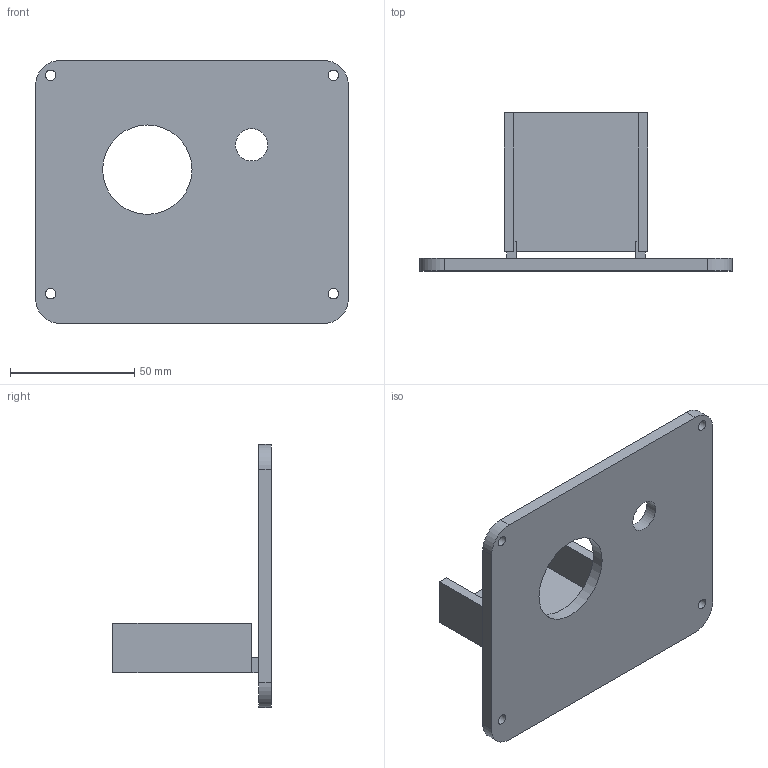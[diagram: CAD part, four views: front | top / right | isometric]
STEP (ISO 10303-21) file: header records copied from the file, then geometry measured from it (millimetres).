
FILE_DESCRIPTION(('FreeCAD Model'),'2;1');
FILE_NAME('Open CASCADE Shape Model','2026-10-14T02:28:25',('FreeCAD'),( 'FreeCAD'),'Open CASCADE STEP processor 7.8','FreeCAD','Unknown');
FILE_SCHEMA(('AUTOMOTIVE_DESIGN { 1 0 10303 214 1 1 1 1 }'));
Length unit declared in the file: millimetre
Products named in the file (1): Open CASCADE STEP translator 7.8 3
Bounding box: 126 x 63.8 x 106 mm (x, y, z)
Volume: 80631.9 mm3; surface area: 38668 mm2
Topology: 1 solids, 1 shells, 36 faces, 102 edges, 68 vertices
Faces by surface type: plane 26, cylinder 10
Full cylindrical faces by diameter (mm): 4.2 x4, 13 x1, 36 x1
Entity records: 1204 total; most frequent: CARTESIAN_POINT 207, ORIENTED_EDGE 204, DIRECTION 196, EDGE_CURVE 102, LINE 82, VECTOR 82, VERTEX_POINT 68, AXIS2_PLACEMENT_3D 57
